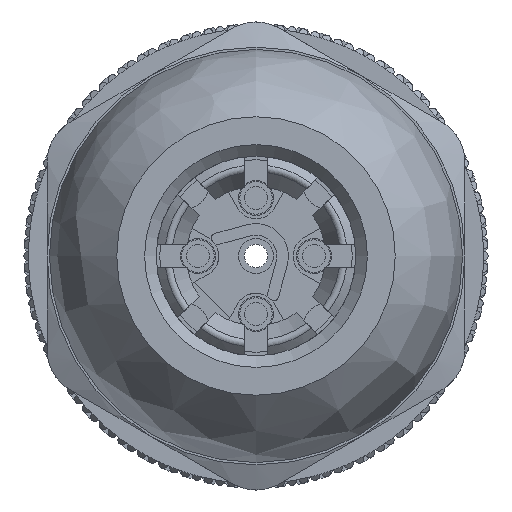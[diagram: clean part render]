
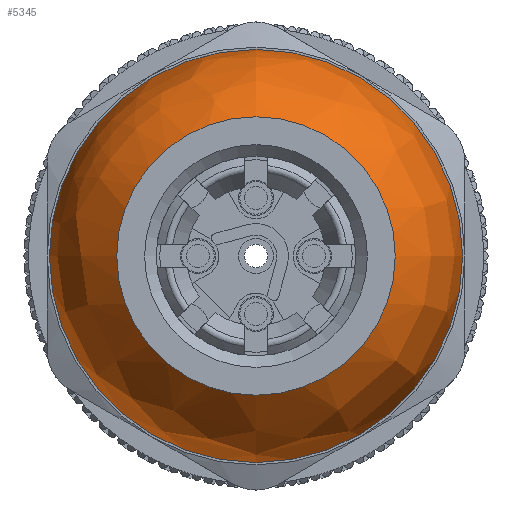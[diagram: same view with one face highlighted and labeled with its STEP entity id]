
A CAD part, front view. The second image highlights one B-rep face of the part: STEP entity #5345.
In plain terms, the highlighted free-form (B-spline) face has degree [3, 3] with [4, 7] control points.
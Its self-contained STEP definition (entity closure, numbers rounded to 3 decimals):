
#145=(
BOUNDED_SURFACE()
B_SPLINE_SURFACE(3,3,((#40296,#40297,#40298,#40299,#40300,#40301,#40302),
(#40303,#40304,#40305,#40306,#40307,#40308,#40309),(#40310,#40311,#40312,
#40313,#40314,#40315,#40316),(#40317,#40318,#40319,#40320,#40321,#40322,
#40323)),.UNSPECIFIED.,.F.,.T.,.F.)
B_SPLINE_SURFACE_WITH_KNOTS((4,4),(1,3,3,3,1),(0.,1.),(-0.5,0.,0.5,1.,1.5),
 .UNSPECIFIED.)
GEOMETRIC_REPRESENTATION_ITEM()
RATIONAL_B_SPLINE_SURFACE(((1.,0.333,0.333,1.,0.333,
0.333,1.),(0.923,0.308,0.308,
0.923,0.308,0.308,0.923),
(0.923,0.308,0.308,0.923,
0.308,0.308,0.923),(1.,0.333,
0.333,1.,0.333,0.333,1.)))
REPRESENTATION_ITEM('')
SURFACE()
);
#5345=ADVANCED_FACE('',(#6717,#6718),#145,.T.);
#6717=FACE_BOUND('',#7562,.T.);
#6718=FACE_BOUND('',#7563,.T.);
#7562=EDGE_LOOP('',(#11137));
#7563=EDGE_LOOP('',(#11138));
#11137=ORIENTED_EDGE('',*,*,#17083,.F.);
#11138=ORIENTED_EDGE('',*,*,#17084,.T.);
#14876=VERTEX_POINT('',#40292);
#14877=VERTEX_POINT('',#40295);
#17083=EDGE_CURVE('',#14876,#14876,#18972,.T.);
#17084=EDGE_CURVE('',#14877,#14877,#18973,.T.);
#18972=CIRCLE('',#20674,8.9);
#18973=CIRCLE('',#20676,6.);
#20674=AXIS2_PLACEMENT_3D('',#40291,#24836,#24837);
#20676=AXIS2_PLACEMENT_3D('',#40294,#24840,#24841);
#24836=DIRECTION('',(0.,1.,0.));
#24837=DIRECTION('',(0.,0.,1.));
#24840=DIRECTION('',(0.,1.,0.));
#24841=DIRECTION('',(0.,0.,1.));
#40291=CARTESIAN_POINT('',(0.,-49.,0.));
#40292=CARTESIAN_POINT('',(0.,-49.,8.9));
#40294=CARTESIAN_POINT('',(0.,-54.5,0.));
#40295=CARTESIAN_POINT('',(0.,-54.5,6.));
#40296=CARTESIAN_POINT('',(-8.9,-49.,0.));
#40297=CARTESIAN_POINT('',(-8.9,-49.,17.8));
#40298=CARTESIAN_POINT('',(8.9,-49.,17.8));
#40299=CARTESIAN_POINT('',(8.9,-49.,0.));
#40300=CARTESIAN_POINT('',(8.9,-49.,-17.8));
#40301=CARTESIAN_POINT('',(-8.9,-49.,-17.8));
#40302=CARTESIAN_POINT('',(-8.9,-49.,0.));
#40303=CARTESIAN_POINT('',(-8.9,-51.245,0.));
#40304=CARTESIAN_POINT('',(-8.9,-51.245,17.8));
#40305=CARTESIAN_POINT('',(8.9,-51.245,17.8));
#40306=CARTESIAN_POINT('',(8.9,-51.245,0.));
#40307=CARTESIAN_POINT('',(8.9,-51.245,-17.8));
#40308=CARTESIAN_POINT('',(-8.9,-51.245,-17.8));
#40309=CARTESIAN_POINT('',(-8.9,-51.245,0.));
#40310=CARTESIAN_POINT('',(-7.853,-53.232,0.));
#40311=CARTESIAN_POINT('',(-7.853,-53.232,15.706));
#40312=CARTESIAN_POINT('',(7.853,-53.232,15.706));
#40313=CARTESIAN_POINT('',(7.853,-53.232,0.));
#40314=CARTESIAN_POINT('',(7.853,-53.232,-15.705));
#40315=CARTESIAN_POINT('',(-7.853,-53.232,-15.705));
#40316=CARTESIAN_POINT('',(-7.853,-53.232,0.));
#40317=CARTESIAN_POINT('',(-6.,-54.5,0.));
#40318=CARTESIAN_POINT('',(-6.,-54.5,12.));
#40319=CARTESIAN_POINT('',(6.,-54.5,12.));
#40320=CARTESIAN_POINT('',(6.,-54.5,0.));
#40321=CARTESIAN_POINT('',(6.,-54.5,-12.));
#40322=CARTESIAN_POINT('',(-6.,-54.5,-12.));
#40323=CARTESIAN_POINT('',(-6.,-54.5,0.));
